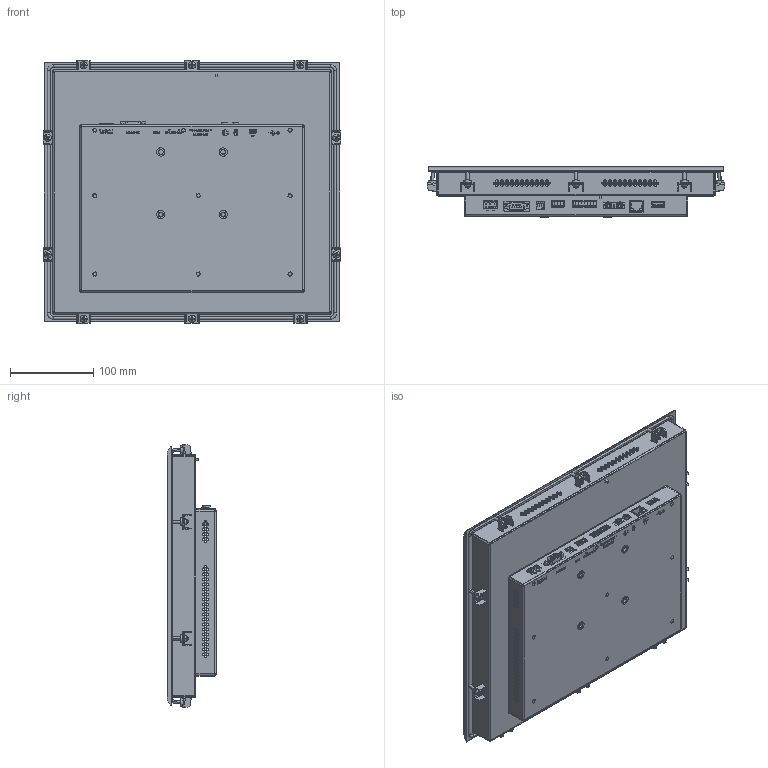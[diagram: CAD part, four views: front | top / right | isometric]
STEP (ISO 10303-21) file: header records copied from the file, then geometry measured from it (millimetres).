
FILE_DESCRIPTION (( 'STEP AP214' ), '1' );
FILE_NAME ('ﾏﾋﾊ15 ﾌ瑕褪.STEP', '2025-05-24T22:14:16', ( '' ), ( '' ), 'SwSTEP 2.0', 'SolidWorks 2021', '' );
FILE_SCHEMA (( 'AUTOMOTIVE_DESIGN' ));
Length unit declared in the file: millimetre
Products named in the file (1): ﾏﾋﾊ15 ﾌ瑕褪
Bounding box: 357.45 x 59.7 x 315.45 mm (x, y, z)
Surface area: 504215.5 mm2 (no closed solid volume)
Topology: 0 solids, 194 shells, 1778 faces, 11742 edges, 10022 vertices
Faces by surface type: plane 925, cylinder 703, cone 64, torus 44, bspline 42
Entity records: 138670 total; most frequent: CARTESIAN_POINT 36965, DIRECTION 15157, ORIENTED_EDGE 14759, EDGE_CURVE 11742, VERTEX_POINT 10022, LINE 5973, VECTOR 5973, AXIS2_PLACEMENT_3D 4592
